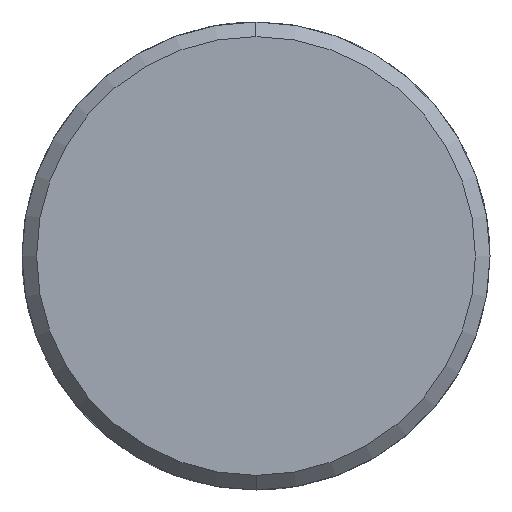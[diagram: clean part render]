
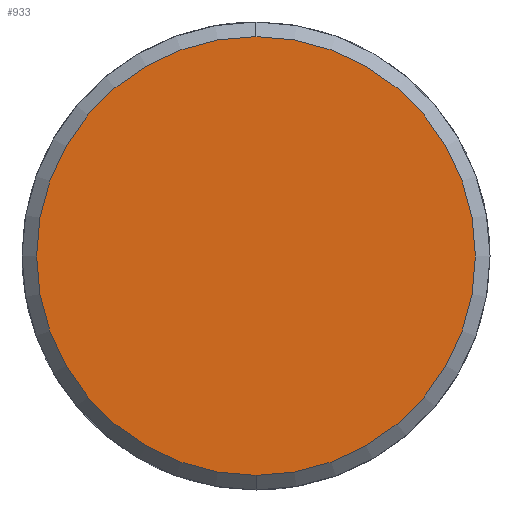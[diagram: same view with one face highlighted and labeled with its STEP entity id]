
A CAD part, left-side view. The second image highlights one B-rep face of the part: STEP entity #933.
In plain terms, the highlighted planar face has unit normal (-1, 0, 0).
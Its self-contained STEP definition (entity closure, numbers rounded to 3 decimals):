
#865=CARTESIAN_POINT('Vertex',(-6.,0.,-15.)) ;
#868=CARTESIAN_POINT('Axis2P3D Location',(-6.,0.,0.)) ;
#872=CARTESIAN_POINT('Vertex',(-6.,15.,0.)) ;
#875=CARTESIAN_POINT('Axis2P3D Location',(-6.,0.,0.)) ;
#879=CARTESIAN_POINT('Vertex',(-6.,0.,15.)) ;
#901=CARTESIAN_POINT('Axis2P3D Location',(-6.,0.,0.)) ;
#905=CARTESIAN_POINT('Vertex',(-6.,-15.,0.)) ;
#908=CARTESIAN_POINT('Axis2P3D Location',(-6.,0.,0.)) ;
#922=CARTESIAN_POINT('Axis2P3D Location',(-6.,0.,0.)) ;
#869=DIRECTION('Axis2P3D Direction',(1.,0.,-0.)) ;
#876=DIRECTION('Axis2P3D Direction',(1.,0.,-0.)) ;
#902=DIRECTION('Axis2P3D Direction',(1.,0.,-0.)) ;
#909=DIRECTION('Axis2P3D Direction',(1.,0.,-0.)) ;
#923=DIRECTION('Axis2P3D Direction',(1.,0.,-0.)) ;
#924=DIRECTION('Axis2P3D XDirection',(-0.,0.,-1.)) ;
#870=AXIS2_PLACEMENT_3D('Circle Axis2P3D',#868,#869,$) ;
#877=AXIS2_PLACEMENT_3D('Circle Axis2P3D',#875,#876,$) ;
#903=AXIS2_PLACEMENT_3D('Circle Axis2P3D',#901,#902,$) ;
#910=AXIS2_PLACEMENT_3D('Circle Axis2P3D',#908,#909,$) ;
#925=AXIS2_PLACEMENT_3D('Plane Axis2P3D',#922,#923,#924) ;
#928=ORIENTED_EDGE('',*,*,#874,.F.) ;
#929=ORIENTED_EDGE('',*,*,#912,.F.) ;
#930=ORIENTED_EDGE('',*,*,#907,.F.) ;
#931=ORIENTED_EDGE('',*,*,#881,.F.) ;
#933=ADVANCED_FACE('351-20X56X80',(#932),#926,.F.) ;
#871=CIRCLE('generated circle',#870,15.) ;
#878=CIRCLE('generated circle',#877,15.) ;
#904=CIRCLE('generated circle',#903,15.) ;
#911=CIRCLE('generated circle',#910,15.) ;
#874=EDGE_CURVE('',#866,#873,#871,.T.) ;
#881=EDGE_CURVE('',#873,#880,#878,.T.) ;
#907=EDGE_CURVE('',#880,#906,#904,.T.) ;
#912=EDGE_CURVE('',#906,#866,#911,.T.) ;
#927=EDGE_LOOP('',(#928,#929,#930,#931)) ;
#932=FACE_OUTER_BOUND('',#927,.T.) ;
#926=PLANE('Plane',#925) ;
#866=VERTEX_POINT('',#865) ;
#873=VERTEX_POINT('',#872) ;
#880=VERTEX_POINT('',#879) ;
#906=VERTEX_POINT('',#905) ;
